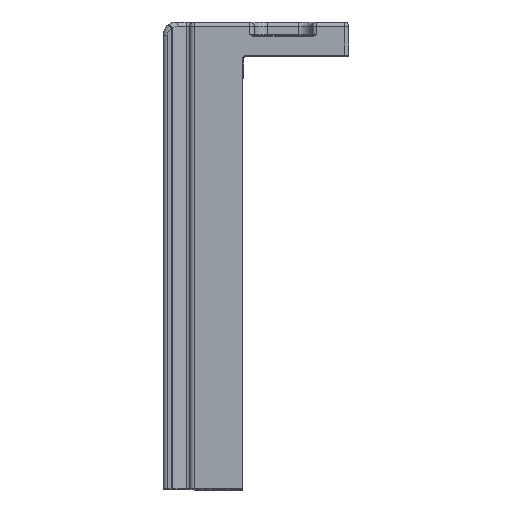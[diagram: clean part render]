
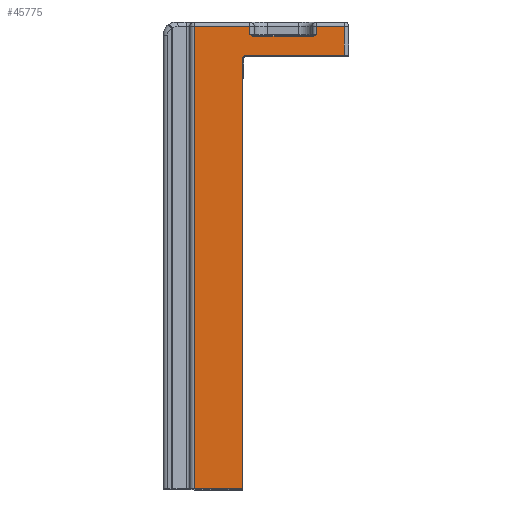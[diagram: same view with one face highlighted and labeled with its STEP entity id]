
A CAD part, top view. The second image highlights one B-rep face of the part: STEP entity #45775.
In plain terms, the highlighted planar face has unit normal (0, 0, 1).
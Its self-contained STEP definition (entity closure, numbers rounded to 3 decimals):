
#15898=CARTESIAN_POINT('',(-108.394,32.3,70.));
#15899=CARTESIAN_POINT('',(-108.353,32.3,
70.));
#15900=CARTESIAN_POINT('',(-108.27,32.307,
70.));
#15901=CARTESIAN_POINT('',(-108.139,32.338,
70.));
#15902=CARTESIAN_POINT('',(-108.018,32.383,
70.));
#15903=CARTESIAN_POINT('',(-107.903,32.439,70.));
#15904=CARTESIAN_POINT('',(-107.832,32.479,
70.));
#15905=CARTESIAN_POINT('',(-107.798,32.5,70.));
#15907=DIRECTION('',(0.,1.,0.));
#15908=VECTOR('',#15907,1.8);
#15909=CARTESIAN_POINT('',(-107.5,32.7,70.));
#15910=LINE('',#15909,#15908);
#15911=DIRECTION('',(-1.,0.,0.));
#15912=VECTOR('',#15911,6.3);
#15913=CARTESIAN_POINT('',(-101.2,34.5,70.));
#15914=LINE('',#15913,#15912);
#15915=DIRECTION('',(0.,1.,0.));
#15916=VECTOR('',#15915,6.5);
#15917=CARTESIAN_POINT('',(-101.2,28.,70.));
#15918=LINE('',#15917,#15916);
#15919=DIRECTION('',(1.,0.,0.));
#15920=VECTOR('',#15919,22.);
#15921=CARTESIAN_POINT('',(-123.2,28.,70.));
#15922=LINE('',#15921,#15920);
#15923=DIRECTION('',(0.,1.,0.));
#15924=VECTOR('',#15923,96.5);
#15925=CARTESIAN_POINT('',(-124.2,-69.5,70.));
#15926=LINE('',#15925,#15924);
#15927=DIRECTION('',(-1.,0.,0.));
#15928=VECTOR('',#15927,10.8);
#15929=CARTESIAN_POINT('',(-124.2,-69.5,70.));
#15930=LINE('',#15929,#15928);
#15931=DIRECTION('',(0.,-1.,0.));
#15932=VECTOR('',#15931,104.);
#15933=CARTESIAN_POINT('',(-135.,34.5,70.));
#15934=LINE('',#15933,#15932);
#15935=DIRECTION('',(-1.,0.,0.));
#15936=VECTOR('',#15935,12.5);
#15937=CARTESIAN_POINT('',(-122.5,34.5,70.));
#15938=LINE('',#15937,#15936);
#15939=DIRECTION('',(0.,-1.,0.));
#15940=VECTOR('',#15939,1.8);
#15941=CARTESIAN_POINT('',(-122.5,34.5,70.));
#15942=LINE('',#15941,#15940);
#15943=CARTESIAN_POINT('',(-122.202,32.5,70.));
#15944=CARTESIAN_POINT('',(-122.168,32.479,
70.));
#15945=CARTESIAN_POINT('',(-122.1,32.441,
70.));
#15946=CARTESIAN_POINT('',(-121.998,32.391,
70.));
#15947=CARTESIAN_POINT('',(-121.896,32.351,
70.));
#15948=CARTESIAN_POINT('',(-121.797,32.322,
70.));
#15949=CARTESIAN_POINT('',(-121.7,32.304,
70.));
#15950=CARTESIAN_POINT('',(-121.637,32.3,
70.));
#15951=CARTESIAN_POINT('',(-121.606,32.3,70.));
#15953=DIRECTION('',(1.,0.,0.));
#15954=VECTOR('',#15953,13.211);
#15955=CARTESIAN_POINT('',(-121.606,32.3,70.));
#15956=LINE('',#15955,#15954);
#15991=CARTESIAN_POINT('',(-122.5,32.7,70.));
#15992=CARTESIAN_POINT('',(-122.48,32.686,
70.));
#15993=CARTESIAN_POINT('',(-122.438,32.656,
70.));
#15994=CARTESIAN_POINT('',(-122.366,32.606,
70.));
#15995=CARTESIAN_POINT('',(-122.287,32.553,
70.));
#15996=CARTESIAN_POINT('',(-122.231,32.518,
70.));
#15997=CARTESIAN_POINT('',(-122.202,32.5,70.));
#16994=CARTESIAN_POINT('',(-107.798,32.5,70.));
#16995=CARTESIAN_POINT('',(-107.768,32.518,
70.));
#16996=CARTESIAN_POINT('',(-107.711,32.554,
70.));
#16997=CARTESIAN_POINT('',(-107.633,32.607,
70.));
#16998=CARTESIAN_POINT('',(-107.562,32.656,
70.));
#16999=CARTESIAN_POINT('',(-107.52,32.686,70.));
#17000=CARTESIAN_POINT('',(-107.5,32.7,70.));
#17020=CARTESIAN_POINT('',(-123.2,27.,70.));
#17021=DIRECTION('',(0.,0.,-1.));
#17022=DIRECTION('',(-1.,0.,0.));
#17023=AXIS2_PLACEMENT_3D('',#17020,#17021,#17022);
#21702=CARTESIAN_POINT('',(-124.2,-69.5,70.));
#21703=VERTEX_POINT('',#21702);
#22780=CARTESIAN_POINT('',(-135.,-69.5,70.));
#22782=VERTEX_POINT('',#22780);
#22854=CARTESIAN_POINT('',(-135.,34.5,70.));
#22855=VERTEX_POINT('',#22854);
#22859=CARTESIAN_POINT('',(-123.2,28.,70.));
#22861=VERTEX_POINT('',#22859);
#22863=CARTESIAN_POINT('',(-124.2,27.,70.));
#22865=VERTEX_POINT('',#22863);
#26152=CARTESIAN_POINT('',(-122.5,34.5,70.));
#26154=VERTEX_POINT('',#26152);
#26177=CARTESIAN_POINT('',(-107.5,34.5,70.));
#26178=VERTEX_POINT('',#26177);
#26180=CARTESIAN_POINT('',(-101.2,28.,70.));
#26182=VERTEX_POINT('',#26180);
#26183=CARTESIAN_POINT('',(-101.2,34.5,70.));
#26184=VERTEX_POINT('',#26183);
#26207=CARTESIAN_POINT('',(-121.606,32.3,70.));
#26208=CARTESIAN_POINT('',(-108.394,32.3,70.));
#26209=VERTEX_POINT('',#26207);
#26210=VERTEX_POINT('',#26208);
#26217=CARTESIAN_POINT('',(-107.5,32.7,70.));
#26219=VERTEX_POINT('',#26217);
#26241=CARTESIAN_POINT('',(-122.5,32.7,70.));
#26242=VERTEX_POINT('',#26241);
#26243=VERTEX_POINT('',#15943);
#26244=VERTEX_POINT('',#15905);
#45741=CARTESIAN_POINT('',(0.,0.,70.));
#45742=DIRECTION('',(0.,0.,1.));
#45743=DIRECTION('',(1.,0.,0.));
#45744=AXIS2_PLACEMENT_3D('',#45741,#45742,#45743);
#45745=PLANE('',#45744);
#45747=ORIENTED_EDGE('',*,*,#45746,.T.);
#45749=ORIENTED_EDGE('',*,*,#45748,.T.);
#45751=ORIENTED_EDGE('',*,*,#45750,.T.);
#45753=ORIENTED_EDGE('',*,*,#45752,.F.);
#45754=ORIENTED_EDGE('',*,*,#45733,.F.);
#45755=ORIENTED_EDGE('',*,*,#27562,.F.);
#45757=ORIENTED_EDGE('',*,*,#45756,.F.);
#45759=ORIENTED_EDGE('',*,*,#45758,.F.);
#45760=ORIENTED_EDGE('',*,*,#27784,.T.);
#45762=ORIENTED_EDGE('',*,*,#45761,.F.);
#45764=ORIENTED_EDGE('',*,*,#45763,.F.);
#45766=ORIENTED_EDGE('',*,*,#45765,.T.);
#45768=ORIENTED_EDGE('',*,*,#45767,.T.);
#45770=ORIENTED_EDGE('',*,*,#45769,.T.);
#45772=ORIENTED_EDGE('',*,*,#45771,.T.);
#45773=EDGE_LOOP('',(#45747,#45749,#45751,#45753,#45754,#45755,#45757,#45759,
#45760,#45762,#45764,#45766,#45768,#45770,#45772));
#45774=FACE_OUTER_BOUND('',#45773,.F.);
#45775=ADVANCED_FACE('',(#45774),#45745,.T.);
#15906=B_SPLINE_CURVE_WITH_KNOTS('',3,(#15898,#15899,#15900,#15901,#15902,
#15903,#15904,#15905),.UNSPECIFIED.,.F.,.F.,(4,1,1,1,1,4),(0.,0.2,0.4,
0.6,0.8,1.),.UNSPECIFIED.);
#15952=B_SPLINE_CURVE_WITH_KNOTS('',3,(#15943,#15944,#15945,#15946,#15947,
#15948,#15949,#15950,#15951),.UNSPECIFIED.,.F.,.F.,(4,1,1,1,1,1,4),(0.,
0.167,0.333,0.5,0.667,0.833,
1.),.UNSPECIFIED.);
#15998=B_SPLINE_CURVE_WITH_KNOTS('',3,(#15991,#15992,#15993,#15994,#15995,
#15996,#15997),.UNSPECIFIED.,.F.,.F.,(4,1,1,1,4),(0.,0.25,0.5,0.75,
1.),.UNSPECIFIED.);
#17001=B_SPLINE_CURVE_WITH_KNOTS('',3,(#16994,#16995,#16996,#16997,#16998,
#16999,#17000),.UNSPECIFIED.,.F.,.F.,(4,1,1,1,4),(0.,0.25,0.5,0.75,
1.),.UNSPECIFIED.);
#17024=CIRCLE('',#17023,1.);
#27562=EDGE_CURVE('',#22861,#26182,#15922,.T.);
#27784=EDGE_CURVE('',#21703,#22782,#15930,.T.);
#45733=EDGE_CURVE('',#26182,#26184,#15918,.T.);
#45746=EDGE_CURVE('',#26210,#26244,#15906,.T.);
#45748=EDGE_CURVE('',#26244,#26219,#17001,.T.);
#45750=EDGE_CURVE('',#26219,#26178,#15910,.T.);
#45752=EDGE_CURVE('',#26184,#26178,#15914,.T.);
#45756=EDGE_CURVE('',#22865,#22861,#17024,.T.);
#45758=EDGE_CURVE('',#21703,#22865,#15926,.T.);
#45761=EDGE_CURVE('',#22855,#22782,#15934,.T.);
#45763=EDGE_CURVE('',#26154,#22855,#15938,.T.);
#45765=EDGE_CURVE('',#26154,#26242,#15942,.T.);
#45767=EDGE_CURVE('',#26242,#26243,#15998,.T.);
#45769=EDGE_CURVE('',#26243,#26209,#15952,.T.);
#45771=EDGE_CURVE('',#26209,#26210,#15956,.T.);
